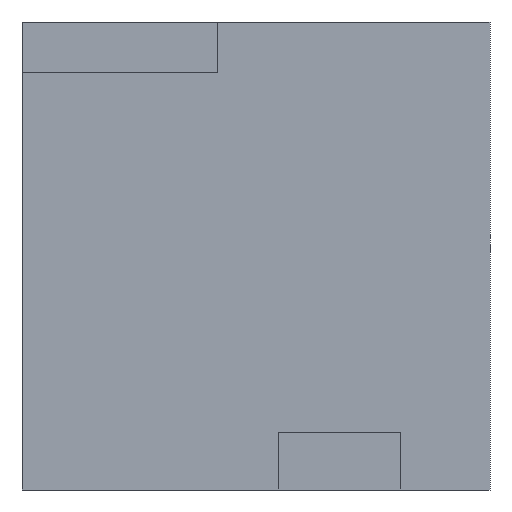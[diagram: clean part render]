
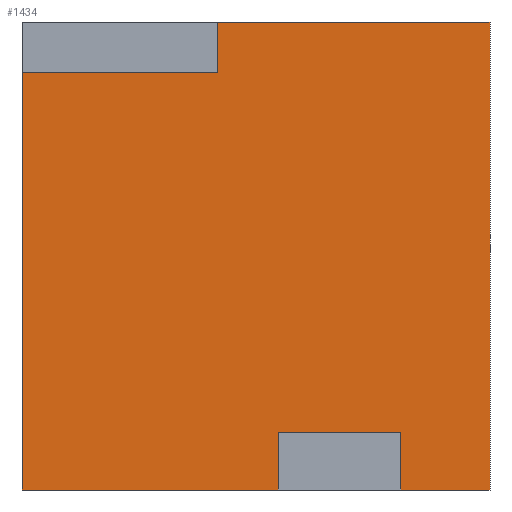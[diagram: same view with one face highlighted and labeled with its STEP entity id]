
A CAD part, left-side view. The second image highlights one B-rep face of the part: STEP entity #1434.
In plain terms, the highlighted planar face has unit normal (-1, 0, 0).
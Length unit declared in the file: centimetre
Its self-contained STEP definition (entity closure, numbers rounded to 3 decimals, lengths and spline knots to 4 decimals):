
#26 = DIRECTION ( 'NONE',  ( 0., 0., 1. ) ) ;
#34 = DIRECTION ( 'NONE',  ( 0., 1., 0. ) ) ;
#40 = VERTEX_POINT ( 'NONE', #318 ) ;
#49 = ORIENTED_EDGE ( 'NONE', *, *, #876, .F. ) ;
#53 = CARTESIAN_POINT ( 'NONE',  ( 0., 1000., 0. ) ) ;
#55 = LINE ( 'NONE', #488, #576 ) ;
#58 = VERTEX_POINT ( 'NONE', #108 ) ;
#89 = LINE ( 'NONE', #527, #1072 ) ;
#92 = ORIENTED_EDGE ( 'NONE', *, *, #439, .F. ) ;
#108 = CARTESIAN_POINT ( 'NONE',  ( 0., 452.8027, 123.5175 ) ) ;
#126 = FACE_OUTER_BOUND ( 'NONE', #1097, .T. ) ;
#140 = LINE ( 'NONE', #959, #1228 ) ;
#166 = VERTEX_POINT ( 'NONE', #53 ) ;
#224 = EDGE_CURVE ( 'NONE', #1439, #1311, #260, .T. ) ;
#260 = LINE ( 'NONE', #363, #1024 ) ;
#297 = VERTEX_POINT ( 'NONE', #1196 ) ;
#318 = CARTESIAN_POINT ( 'NONE',  ( 0., 452.8027, 0. ) ) ;
#332 = EDGE_CURVE ( 'NONE', #592, #166, #627, .T. ) ;
#337 = ORIENTED_EDGE ( 'NONE', *, *, #360, .F. ) ;
#342 = VERTEX_POINT ( 'NONE', #777 ) ;
#343 = PLANE ( 'NONE',  #879 ) ;
#356 = CARTESIAN_POINT ( 'NONE',  ( 0., 583.3068, 892.6634 ) ) ;
#358 = DIRECTION ( 'NONE',  ( 0., -1., 0. ) ) ;
#360 = EDGE_CURVE ( 'NONE', #1292, #58, #556, .T. ) ;
#363 = CARTESIAN_POINT ( 'NONE',  ( 0., 1000., 1000. ) ) ;
#378 = CARTESIAN_POINT ( 'NONE',  ( 0., 1000., 892.6634 ) ) ;
#382 = ORIENTED_EDGE ( 'NONE', *, *, #555, .F. ) ;
#394 = VECTOR ( 'NONE', #26, 100. ) ;
#427 = DIRECTION ( 'NONE',  ( 0., 0., -1. ) ) ;
#439 = EDGE_CURVE ( 'NONE', #297, #1439, #1365, .T. ) ;
#478 = LINE ( 'NONE', #937, #679 ) ;
#488 = CARTESIAN_POINT ( 'NONE',  ( 0., 1000., 0. ) ) ;
#505 = EDGE_CURVE ( 'NONE', #297, #592, #1133, .T. ) ;
#507 = VECTOR ( 'NONE', #645, 100. ) ;
#527 = CARTESIAN_POINT ( 'NONE',  ( 0., 0., 1000. ) ) ;
#530 = ORIENTED_EDGE ( 'NONE', *, *, #593, .T. ) ;
#555 = EDGE_CURVE ( 'NONE', #58, #40, #478, .T. ) ;
#556 = LINE ( 'NONE', #1213, #1327 ) ;
#565 = DIRECTION ( 'NONE',  ( 0., 0., -1. ) ) ;
#576 = VECTOR ( 'NONE', #1275, 100. ) ;
#592 = VERTEX_POINT ( 'NONE', #378 ) ;
#593 = EDGE_CURVE ( 'NONE', #166, #40, #140, .T. ) ;
#620 = EDGE_CURVE ( 'NONE', #342, #1067, #55, .T. ) ;
#627 = LINE ( 'NONE', #1075, #507 ) ;
#639 = DIRECTION ( 'NONE',  ( 0., 0., 1. ) ) ;
#645 = DIRECTION ( 'NONE',  ( 0., 0., -1. ) ) ;
#677 = VECTOR ( 'NONE', #34, 100. ) ;
#679 = VECTOR ( 'NONE', #1058, 100. ) ;
#699 = VECTOR ( 'NONE', #639, 100. ) ;
#708 = CARTESIAN_POINT ( 'NONE',  ( 0., 0., 0. ) ) ;
#762 = CARTESIAN_POINT ( 'NONE',  ( 0., 191.172, 0. ) ) ;
#763 = ORIENTED_EDGE ( 'NONE', *, *, #505, .T. ) ;
#777 = CARTESIAN_POINT ( 'NONE',  ( 0., 191.172, 0. ) ) ;
#867 = LINE ( 'NONE', #762, #699 ) ;
#876 = EDGE_CURVE ( 'NONE', #342, #1292, #867, .T. ) ;
#879 = AXIS2_PLACEMENT_3D ( 'NONE', #1127, #1117, #565 ) ;
#919 = EDGE_CURVE ( 'NONE', #1311, #1067, #89, .T. ) ;
#937 = CARTESIAN_POINT ( 'NONE',  ( 0., 452.8027, 0. ) ) ;
#959 = CARTESIAN_POINT ( 'NONE',  ( 0., 1000., 0. ) ) ;
#970 = CARTESIAN_POINT ( 'NONE',  ( 0., 191.172, 123.5175 ) ) ;
#996 = DIRECTION ( 'NONE',  ( 0., 1., 0. ) ) ;
#1024 = VECTOR ( 'NONE', #1251, 100. ) ;
#1058 = DIRECTION ( 'NONE',  ( 0., 0., -1. ) ) ;
#1067 = VERTEX_POINT ( 'NONE', #708 ) ;
#1072 = VECTOR ( 'NONE', #427, 100. ) ;
#1075 = CARTESIAN_POINT ( 'NONE',  ( 0., 1000., 1000. ) ) ;
#1097 = EDGE_LOOP ( 'NONE', ( #92, #763, #1385, #530, #382, #337, #49, #1203, #1325, #1343 ) ) ;
#1117 = DIRECTION ( 'NONE',  ( 1., 0., 0. ) ) ;
#1127 = CARTESIAN_POINT ( 'NONE',  ( 0., 1000., 1000. ) ) ;
#1133 = LINE ( 'NONE', #1241, #677 ) ;
#1196 = CARTESIAN_POINT ( 'NONE',  ( 0., 583.3068, 892.6634 ) ) ;
#1203 = ORIENTED_EDGE ( 'NONE', *, *, #620, .T. ) ;
#1213 = CARTESIAN_POINT ( 'NONE',  ( 0., 191.172, 123.5175 ) ) ;
#1228 = VECTOR ( 'NONE', #358, 100. ) ;
#1241 = CARTESIAN_POINT ( 'NONE',  ( 0., 583.3068, 892.6634 ) ) ;
#1251 = DIRECTION ( 'NONE',  ( 0., -1., 0. ) ) ;
#1275 = DIRECTION ( 'NONE',  ( 0., -1., 0. ) ) ;
#1292 = VERTEX_POINT ( 'NONE', #970 ) ;
#1311 = VERTEX_POINT ( 'NONE', #1401 ) ;
#1325 = ORIENTED_EDGE ( 'NONE', *, *, #919, .F. ) ;
#1327 = VECTOR ( 'NONE', #996, 100. ) ;
#1343 = ORIENTED_EDGE ( 'NONE', *, *, #224, .F. ) ;
#1354 = CARTESIAN_POINT ( 'NONE',  ( 0., 583.3068, 1000. ) ) ;
#1365 = LINE ( 'NONE', #356, #394 ) ;
#1385 = ORIENTED_EDGE ( 'NONE', *, *, #332, .T. ) ;
#1401 = CARTESIAN_POINT ( 'NONE',  ( 0., 0., 1000. ) ) ;
#1434 = ADVANCED_FACE ( 'NONE', ( #126 ), #343, .F. ) ;
#1439 = VERTEX_POINT ( 'NONE', #1354 ) ;
